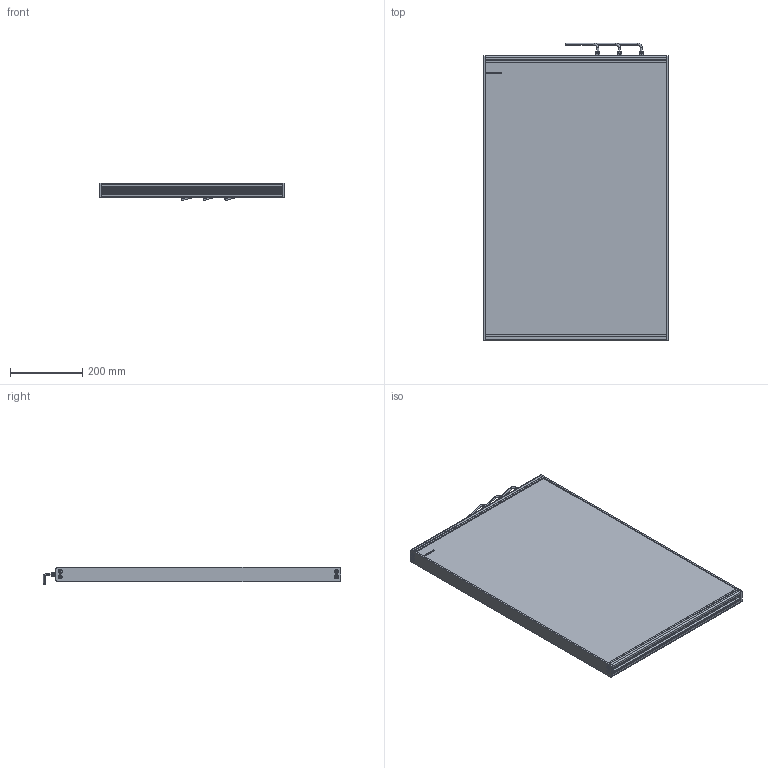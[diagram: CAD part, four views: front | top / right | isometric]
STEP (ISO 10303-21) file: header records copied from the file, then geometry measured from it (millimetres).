
FILE_DESCRIPTION (( 'STEP AP214' ), '1' );
FILE_NAME ('EFFI-BL-500T-750+3M12.STEP', '2021-07-02T07:52:06', ( '' ), ( '' ), 'SwSTEP 2.0', 'SolidWorks 2021', '' );
FILE_SCHEMA (( 'AUTOMOTIVE_DESIGN' ));
Length unit declared in the file: millimetre
Products named in the file (7): profile modif_lg 99.5 mm; bord fin modif_lg 436.5 mm; cordon_Avec cable; Pièce2^EFFI-BL-XXXT-YYY + 3 M12; EFFI-BL-500T-750+3M12; 003776
Assembly tree (16 placements, depth 2):
  EFFI-BL-500T-750+3M12
    profile modif_lg 99.5 mm
    bord fin modif_lg 436.5 mm  x2
    Pièce2^EFFI-BL-XXXT-YYY + 3 M12
    profile modif_lg 99.5 mm
    003776  x8
    cordon_Avec cable  x3
Bounding box: 510 x 821.15 x 48.18 mm (x, y, z)
Volume: 13857646.8 mm3; surface area: 1138467.2 mm2
Topology: 13 solids, 31 shells, 748 faces, 1882 edges, 1207 vertices
Faces by surface type: plane 417, bspline 143, cylinder 136, torus 30, cone 22
Entity records: 16678 total; most frequent: CARTESIAN_POINT 5372, ORIENTED_EDGE 2208, DIRECTION 1926, EDGE_CURVE 1108, VECTOR 802, LINE 802, VERTEX_POINT 730, AXIS2_PLACEMENT_3D 562
